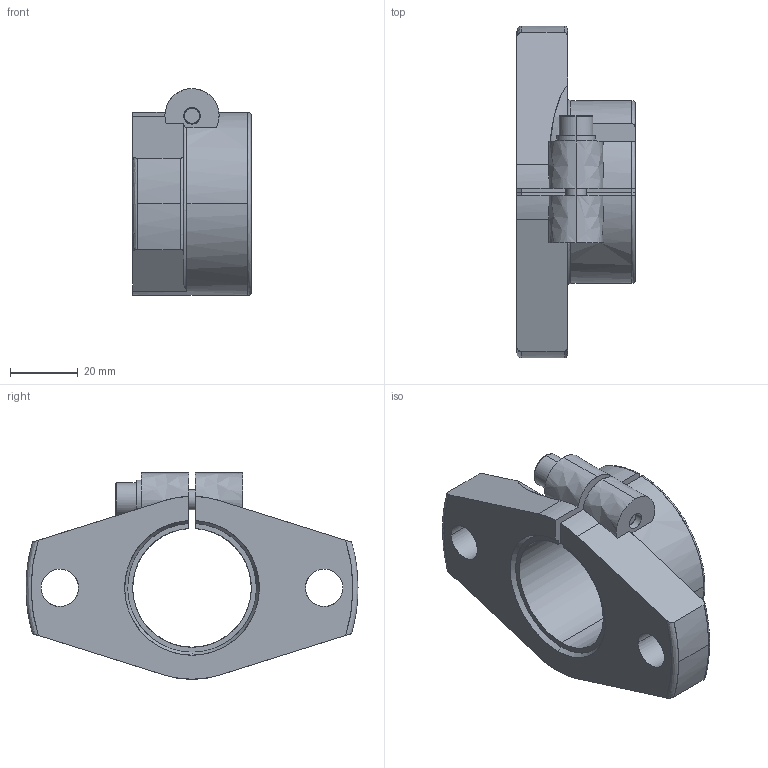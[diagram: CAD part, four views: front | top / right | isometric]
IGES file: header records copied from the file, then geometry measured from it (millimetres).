
Global section: file name: No Iges File Name specified; native system: AutoDesk Inventor R10; preprocessor: AutoDesk Inventor Iges Exporter R10; author: No Author specified; organization: No Organization specified; date: 20101214.153715; units: millimetre
Bounding box: 35 x 98 x 61 mm (x, y, z)
Surface area: 19587.9 mm2 (no closed solid volume)
Topology: 0 solids, 0 shells, 75 faces, 680 edges, 678 vertices
Faces by surface type: bspline 75
